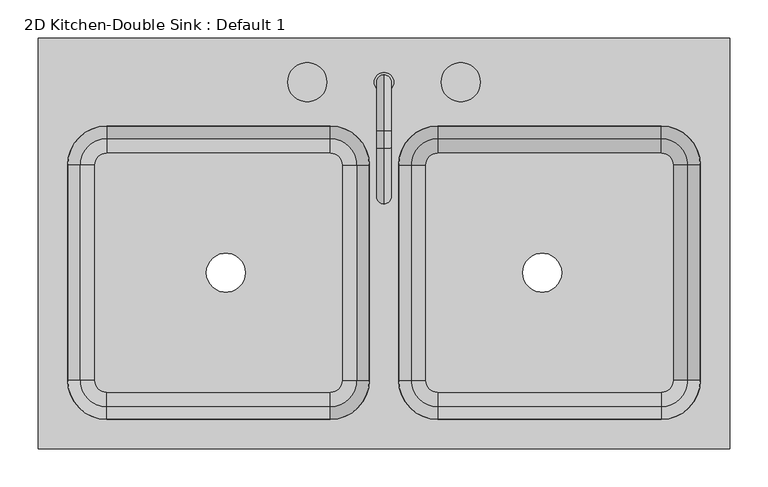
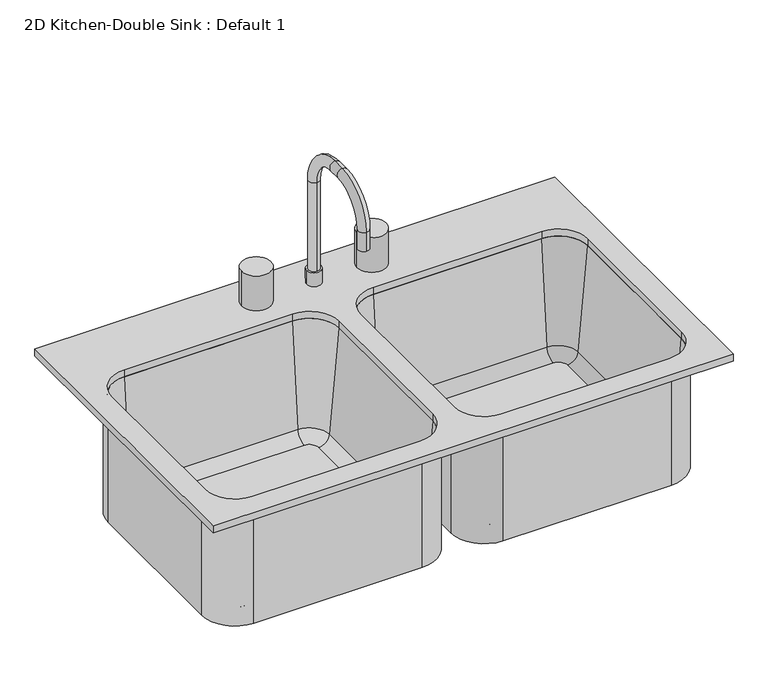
"""IFC4 building model written with IfcOpenShell, lengths in millimetres: flow terminal geometry, 2D Kitchen-Double Sink : Default 1."""

from ifc_helpers import new_model, si_unit, point, frame, frame_2d, origin, place, context, project, spatial, polyline, circle_curve, ellipse_curve, trimmed, segment, composite_curve, outline, extrude, source, transform, mapped, element, save
from ifc_brep_helpers import plane_surface, cylinder_surface, revolved_surface, advanced_brep


def flow_terminal_2d_kitchen_double_sink_default_1_847390bf(model_context):
    return source(origin(), model_context, "Body", "SolidModel", [
        advanced_brep(
        [(377.0892342, 120.0338193, 555.625), (85.5392406, 120.0338193, 555.625), (70.2508224, 104.7454011, 555.625), (70.2508224, -176.2545989, 555.625), (85.5392406, -191.5430171, 555.625), (377.0892406, -191.5430171, 555.625), (392.3776588, -176.2545989, 555.625), (392.3776588, 104.7454011, 555.625), (196.3892406, -35.7545989, 555.625), (247.1892406, -35.7545989, 555.625), (28.3892406, 104.7454011, 546.1), (85.5392406, 161.8954011, 546.1), (377.0892406, 161.8954011, 546.1), (434.2392406, 104.7454011, 546.1), (434.2392406, -176.2545989, 546.1), (377.0892406, -233.4045989, 546.1), (85.5392406, -233.4045989, 546.1), (28.3892406, -176.2545989, 546.1), (196.3892406, -35.7545989, 546.1), (247.1892406, -35.7545989, 546.1), (34.7392406, 104.7454011, 762.0), (85.5392406, 155.5454011, 762.0), (85.5392406, 161.8954011, 762.0), (28.3892406, 104.7454011, 762.0), (51.2733134, 104.7454011, 573.0146831), (85.5392406, 139.0113283, 573.0146831), (28.3892406, -176.2545989, 762.0), (34.7392406, -176.2545989, 762.0), (51.2733134, -176.2545989, 573.0146831), (85.5392406, -233.4045989, 762.0), (85.5392406, -227.0545989, 762.0), (85.5392406, -210.5205261, 573.0146831), (377.0892406, -233.4045989, 762.0), (377.0892406, -227.0545989, 762.0), (377.0892406, -210.5205261, 573.0146831), (434.2392406, -176.2545989, 762.0), (427.8892406, -176.2545989, 762.0), (411.3551678, -176.2545989, 573.0146831), (434.2392406, 104.7454011, 762.0), (427.8892406, 104.7454011, 762.0), (411.3551678, 104.7454011, 573.0146831), (377.0892406, 161.8954011, 762.0), (377.0892406, 155.5454011, 762.0), (377.0892406, 139.0113283, 573.0146831)],
        [
            (0, 1),
            (1, 2, circle_curve(frame((85.5392406, 104.7454011, 555.625), z_axis=(0.0, 0.0, 1.0), x_axis=(0.0, 1.0, 0.0)), 15.2884182)),
            (2, 3),
            (3, 4, circle_curve(frame((85.5392406, -176.2545989, 555.625), z_axis=(0.0, 0.0, 1.0), x_axis=(-1.0, 0.0, 0.0)), 15.2884182)),
            (4, 5),
            (5, 6, circle_curve(frame((377.0892406, -176.2545989, 555.625), z_axis=(0.0, 0.0, 1.0), x_axis=(0.0, -1.0, 0.0)), 15.2884182)),
            (6, 7),
            (7, 0, circle_curve(frame((377.0892406, 104.7454011, 555.625), z_axis=(0.0, 0.0, 1.0), x_axis=(1.0, 0.0, 0.0)), 15.2884182)),
            (8, 9, circle_curve(frame((221.7892406, -35.7545989, 555.625), z_axis=(0.0, 0.0, -1.0), x_axis=(1.0, 0.0, 0.0)), 25.4)),
            (9, 8, circle_curve(frame((221.7892406, -35.7545989, 555.625), z_axis=(0.0, 0.0, -1.0), x_axis=(1.0, 0.0, 0.0)), 25.4)),
            (10, 11, circle_curve(frame((85.5392406, 104.7454011, 546.1), z_axis=(0.0, 0.0, -1.0), x_axis=(0.0, 1.0, 0.0)), 57.15)),
            (11, 12),
            (12, 13, circle_curve(frame((377.0892406, 104.7454011, 546.1), z_axis=(0.0, 0.0, -1.0), x_axis=(1.0, 0.0, 0.0)), 57.15)),
            (13, 14),
            (14, 15, circle_curve(frame((377.0892406, -176.2545989, 546.1), z_axis=(0.0, 0.0, -1.0), x_axis=(0.0, -1.0, 0.0)), 57.15)),
            (15, 16),
            (16, 17, circle_curve(frame((85.5392406, -176.2545989, 546.1), z_axis=(0.0, 0.0, -1.0), x_axis=(-1.0, 0.0, 0.0)), 57.15)),
            (17, 10),
            (18, 19, circle_curve(frame((221.7892406, -35.7545989, 546.1), z_axis=(0.0, 0.0, 1.0), x_axis=(1.0, 0.0, 0.0)), 25.4)),
            (19, 18, circle_curve(frame((221.7892406, -35.7545989, 546.1), z_axis=(0.0, 0.0, 1.0), x_axis=(1.0, 0.0, 0.0)), 25.4)),
            (8, 18),
            (19, 9),
            (20, 21, circle_curve(frame((85.5392406, 104.7454011, 762.0), z_axis=(0.0, 0.0, -1.0), x_axis=(0.0, 1.0, 0.0)), 50.8)),
            (21, 22),
            (22, 23, circle_curve(frame((85.5392406, 104.7454011, 762.0), z_axis=(0.0, 0.0, 1.0), x_axis=(0.0, 1.0, 0.0)), 57.15)),
            (23, 20),
            (20, 24),
            (24, 25, circle_curve(frame((85.5392406, 104.7454011, 573.0146831), z_axis=(0.0, 0.0, -1.0), x_axis=(0.0, 1.0, 0.0)), 34.2659272)),
            (25, 21),
            (24, 2, circle_curve(frame((70.2508224, 104.7454011, 574.675), z_axis=(0.0, -1.0, 0.0), x_axis=(1.0, 0.0, 0.0)), 19.05)),
            (1, 25, circle_curve(frame((85.5392406, 120.0338193, 574.675), z_axis=(1.0, 0.0, 0.0), x_axis=(0.0, -1.0, 0.0)), 19.05)),
            (22, 11),
            (10, 23),
            (23, 26),
            (26, 27),
            (27, 20),
            (27, 28),
            (28, 24),
            (28, 3, circle_curve(frame((70.2508224, -176.2545989, 574.675), z_axis=(0.0, -1.0, 0.0), x_axis=(1.0, 0.0, 0.0)), 19.05)),
            (17, 26),
            (26, 29, circle_curve(frame((85.5392406, -176.2545989, 762.0), z_axis=(0.0, 0.0, 1.0), x_axis=(-1.0, 0.0, 0.0)), 57.15)),
            (29, 30),
            (30, 27, circle_curve(frame((85.5392406, -176.2545989, 762.0), z_axis=(0.0, 0.0, -1.0), x_axis=(-1.0, 0.0, 0.0)), 50.8)),
            (30, 31),
            (31, 28, circle_curve(frame((85.5392406, -176.2545989, 573.0146831), z_axis=(0.0, 0.0, -1.0), x_axis=(-1.0, 0.0, 0.0)), 34.2659272)),
            (31, 4, circle_curve(frame((85.5392406, -191.5430171, 574.675), z_axis=(1.0, 0.0, 0.0), x_axis=(0.0, 1.0, 0.0)), 19.05)),
            (16, 29),
            (29, 32),
            (32, 33),
            (33, 30),
            (33, 34),
            (34, 31),
            (34, 5, circle_curve(frame((377.0892406, -191.5430171, 574.675), z_axis=(1.0, 0.0, 0.0), x_axis=(0.0, 1.0, 0.0)), 19.05)),
            (15, 32),
            (32, 35, circle_curve(frame((377.0892406, -176.2545989, 762.0), z_axis=(0.0, 0.0, 1.0), x_axis=(0.0, -1.0, 0.0)), 57.15)),
            (35, 36),
            (36, 33, circle_curve(frame((377.0892406, -176.2545989, 762.0), z_axis=(0.0, 0.0, -1.0), x_axis=(0.0, -1.0, 0.0)), 50.8)),
            (36, 37),
            (37, 34, circle_curve(frame((377.0892406, -176.2545989, 573.0146831), z_axis=(0.0, 0.0, -1.0), x_axis=(0.0, -1.0, 0.0)), 34.2659272)),
            (37, 6, circle_curve(frame((392.3776588, -176.2545989, 574.675), z_axis=(0.0, 1.0, 0.0), x_axis=(-1.0, 0.0, 0.0)), 19.05)),
            (14, 35),
            (35, 38),
            (38, 39),
            (39, 36),
            (39, 40),
            (40, 37),
            (40, 7, circle_curve(frame((392.3776588, 104.7454011, 574.675), z_axis=(0.0, 1.0, 0.0), x_axis=(-1.0, 0.0, 0.0)), 19.05)),
            (13, 38),
            (38, 41, circle_curve(frame((377.0892406, 104.7454011, 762.0), z_axis=(0.0, 0.0, 1.0), x_axis=(1.0, 0.0, 0.0)), 57.15)),
            (41, 42),
            (42, 39, circle_curve(frame((377.0892406, 104.7454011, 762.0), z_axis=(0.0, 0.0, -1.0), x_axis=(1.0, 0.0, 0.0)), 50.8)),
            (42, 43),
            (43, 40, circle_curve(frame((377.0892406, 104.7454011, 573.0146831), z_axis=(0.0, 0.0, -1.0), x_axis=(1.0, 0.0, 0.0)), 34.2659272)),
            (43, 0, circle_curve(frame((377.0892406, 120.0338193, 574.675), z_axis=(-1.0, 0.0, 0.0), x_axis=(0.0, -1.0, 0.0)), 19.05)),
            (12, 41),
            (21, 42),
            (41, 22),
            (25, 43),
        ],
        [
            plane_surface(frame((85.5392406, 120.0338193, 555.625), z_axis=(0.0, 0.0, 1.0), x_axis=(-1.0, 0.0, 0.0))),
            plane_surface(frame((85.5392406, 120.0338193, 546.1), z_axis=(0.0, 0.0, -1.0), x_axis=(1.0, 0.0, 0.0))),
            revolved_surface(polyline([(247.1892406, -35.7545989, 546.1), (247.1892406, -35.7545989, 555.625)]), (221.7892406, -35.7545989, 0.0), (0.0, 0.0, -1.0)),
            plane_surface(frame((85.5392406, 104.7454011, 762.0), z_axis=(0.0, 0.0, 1.0), x_axis=(0.0, 1.0, 0.0))),
            revolved_surface(polyline([(85.5392406, 155.5454011, 762.0), (85.5392406, 139.0113283, 573.0146831)]), (85.5392406, 104.7454011, 0.0), (0.0, 0.0, 1.0)),
            revolved_surface(trimmed(ellipse_curve(frame((85.5392406, 120.0338193, 574.675), z_axis=(-1.0, 0.0, 0.0), x_axis=(0.0, -1.0, 0.0)), 19.05, 19.05), [point((85.5392406, 139.0113283, 573.0146831))], [point((85.5392406, 120.0338193, 555.625))], True, "CARTESIAN"), (85.5392406, 104.7454011, 0.0), (0.0, 0.0, 1.0)),
            cylinder_surface(frame((85.5392406, 104.7454011, 0.0), z_axis=(0.0, 0.0, 1.0), x_axis=(0.0, 1.0, 0.0)), 57.15),
            plane_surface(frame((28.3892406, 104.7454011, 762.0), z_axis=(0.0, 0.0, 1.0), x_axis=(0.0, -1.0, 0.0))),
            plane_surface(frame((34.7392406, 104.7454011, 762.0), z_axis=(0.996194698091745, 0.0, 0.08715574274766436), x_axis=(0.0, -1.0, 0.0))),
            revolved_surface(polyline([(89.3008224, -176.25459890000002, 574.675), (89.3008224, 104.7454011, 574.675)]), (70.2508224, 104.7454011, 574.675), (0.0, -1.0, 0.0)),
            plane_surface(frame((28.3892406, 104.7454011, 546.1), z_axis=(-1.0, 0.0, 0.0), x_axis=(0.0, -1.0, 0.0))),
            plane_surface(frame((85.5392406, -176.2545989, 762.0), z_axis=(0.0, 0.0, 1.0), x_axis=(-1.0, 0.0, 0.0))),
            revolved_surface(polyline([(34.7392406, -176.2545989, 762.0), (51.2733134, -176.2545989, 573.0146831)]), (85.5392406, -176.2545989, 0.0), (0.0, 0.0, 1.0)),
            revolved_surface(trimmed(ellipse_curve(frame((70.2508224, -176.2545989, 574.675), z_axis=(0.0, -1.0, 0.0), x_axis=(1.0, 0.0, 0.0)), 19.05, 19.05), [point((51.2733134, -176.2545989, 573.0146831))], [point((70.2508224, -176.2545989, 555.625))], True, "CARTESIAN"), (85.5392406, -176.2545989, 0.0), (0.0, 0.0, 1.0)),
            cylinder_surface(frame((85.5392406, -176.2545989, 0.0), z_axis=(0.0, 0.0, 1.0), x_axis=(-1.0, 0.0, 0.0)), 57.15),
            plane_surface(frame((85.5392406, -233.4045989, 762.0), z_axis=(0.0, 0.0, 1.0), x_axis=(1.0, 0.0, 0.0))),
            plane_surface(frame((85.5392406, -227.0545989, 762.0), z_axis=(0.0, 0.996194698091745, 0.08715574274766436), x_axis=(1.0, 0.0, 0.0))),
            revolved_surface(polyline([(377.0892405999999, -172.49301709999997, 574.675), (85.5392406, -172.49301709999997, 574.675)]), (85.5392406, -191.5430171, 574.675), (1.0, 0.0, 0.0)),
            plane_surface(frame((85.5392406, -233.4045989, 546.1), z_axis=(0.0, -1.0, 0.0), x_axis=(1.0, 0.0, 0.0))),
            plane_surface(frame((377.0892406, -176.2545989, 762.0), z_axis=(0.0, 0.0, 1.0), x_axis=(0.0, -1.0, 0.0))),
            revolved_surface(polyline([(377.0892406, -227.0545989, 762.0), (377.0892406, -210.5205261, 573.0146831)]), (377.0892406, -176.2545989, 0.0), (0.0, 0.0, 1.0)),
            revolved_surface(trimmed(ellipse_curve(frame((377.0892406, -191.5430171, 574.675), z_axis=(1.0, 0.0, 0.0), x_axis=(0.0, 1.0, 0.0)), 19.05, 19.05), [point((377.0892406, -210.5205261, 573.0146831))], [point((377.0892406, -191.5430171, 555.625))], True, "CARTESIAN"), (377.0892406, -176.2545989, 0.0), (0.0, 0.0, 1.0)),
            cylinder_surface(frame((377.0892406, -176.2545989, 0.0), z_axis=(0.0, 0.0, 1.0), x_axis=(0.0, -1.0, 0.0)), 57.15),
            plane_surface(frame((434.2392406, -176.2545989, 762.0), z_axis=(0.0, 0.0, 1.0), x_axis=(0.0, 1.0, 0.0))),
            plane_surface(frame((427.8892406, -176.2545989, 762.0), z_axis=(-0.996194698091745, 0.0, 0.08715574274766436), x_axis=(0.0, 1.0, 0.0))),
            revolved_surface(polyline([(373.3276588, 104.74540110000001, 574.675), (373.3276588, -176.2545989, 574.675)]), (392.3776588, -176.2545989, 574.675), (0.0, 1.0, 0.0)),
            plane_surface(frame((434.2392406, -176.2545989, 546.1), z_axis=(1.0, 0.0, 0.0), x_axis=(0.0, 1.0, 0.0))),
            plane_surface(frame((377.0892406, 104.7454011, 762.0), z_axis=(0.0, 0.0, 1.0), x_axis=(1.0, 0.0, 0.0))),
            revolved_surface(polyline([(427.8892406, 104.7454011, 762.0), (411.3551678, 104.7454011, 573.0146831)]), (377.0892406, 104.7454011, 0.0), (0.0, 0.0, 1.0)),
            revolved_surface(trimmed(ellipse_curve(frame((392.3776588, 104.7454011, 574.675), z_axis=(0.0, 1.0, 0.0), x_axis=(-1.0, 0.0, 0.0)), 19.05, 19.05), [point((411.3551678, 104.7454011, 573.0146831))], [point((392.3776588, 104.7454011, 555.625))], True, "CARTESIAN"), (377.0892406, 104.7454011, 0.0), (0.0, 0.0, 1.0)),
            cylinder_surface(frame((377.0892406, 104.7454011, 0.0), z_axis=(0.0, 0.0, 1.0), x_axis=(1.0, 0.0, 0.0)), 57.15),
            plane_surface(frame((377.0892406, 161.8954011, 762.0), z_axis=(0.0, 0.0, 1.0), x_axis=(-1.0, 0.0, 0.0))),
            plane_surface(frame((377.0892406, 155.5454011, 762.0), z_axis=(0.0, -0.996194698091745, 0.08715574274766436), x_axis=(-1.0, 0.0, 0.0))),
            revolved_surface(polyline([(85.53924060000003, 100.98381930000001, 574.675), (377.0892406, 100.98381930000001, 574.675)]), (377.0892406, 120.0338193, 574.675), (-1.0, 0.0, 0.0)),
            plane_surface(frame((377.0892406, 161.8954011, 546.1), z_axis=(0.0, 1.0, 0.0), x_axis=(-1.0, 0.0, 0.0))),
        ],
        [
            (0, [[1, 2, 3, 4, 5, 6, 7, 8], [9, 10]]),
            (1, [[11, 12, 13, 14, 15, 16, 17, 18], [19, 20]]),
            (2, [[-9, 21, -20, 22]]),
            (2, [[-10, -22, -19, -21]]),
            (3, [[23, 24, 25, 26]]),
            (4, [[-23, 27, 28, 29]]),
            (5, [[-28, 30, -2, 31]]),
            (6, [[-25, 32, -11, 33]]),
            (7, [[-26, 34, 35, 36]]),
            (8, [[-27, -36, 37, 38]]),
            (9, [[-30, -38, 39, -3]]),
            (10, [[-33, -18, 40, -34]]),
            (11, [[-35, 41, 42, 43]]),
            (12, [[-37, -43, 44, 45]]),
            (13, [[-39, -45, 46, -4]]),
            (14, [[-40, -17, 47, -41]]),
            (15, [[-42, 48, 49, 50]]),
            (16, [[-44, -50, 51, 52]]),
            (17, [[-46, -52, 53, -5]]),
            (18, [[-47, -16, 54, -48]]),
            (19, [[-49, 55, 56, 57]]),
            (20, [[-51, -57, 58, 59]]),
            (21, [[-53, -59, 60, -6]]),
            (22, [[-54, -15, 61, -55]]),
            (23, [[-56, 62, 63, 64]]),
            (24, [[-58, -64, 65, 66]]),
            (25, [[-60, -66, 67, -7]]),
            (26, [[-61, -14, 68, -62]]),
            (27, [[-63, 69, 70, 71]]),
            (28, [[-65, -71, 72, 73]]),
            (29, [[-67, -73, 74, -8]]),
            (30, [[-68, -13, 75, -69]]),
            (31, [[-24, 76, -70, 77]]),
            (32, [[-29, 78, -72, -76]]),
            (33, [[-31, -1, -74, -78]]),
            (34, [[-32, -77, -75, -12]]),
        ],
    ),
        advanced_brep(
        [(-38.8723412, 104.7454011, 555.625), (-54.1607594, 120.0338193, 555.625), (-345.7107594, 120.0338193, 555.625), (-360.9991776, 104.7454011, 555.625), (-360.9991776, -176.2545989, 555.625), (-345.7107594, -191.5430171, 555.625), (-54.1607594, -191.5430171, 555.625), (-38.8723412, -176.2545989, 555.625), (-215.8107594, -35.7545989, 555.625), (-165.0107594, -35.7545989, 555.625), (-402.8607594, 104.7454011, 546.1), (-345.7107594, 161.8954011, 546.1), (-54.1607594, 161.8954011, 546.1), (2.9892406, 104.7454011, 546.1), (2.9892406, -176.2545989, 546.1), (-54.1607594, -233.4045989, 546.1), (-345.7107594, -233.4045989, 546.1), (-402.8607594, -176.2545989, 546.1), (-215.8107594, -35.7545989, 546.1), (-165.0107594, -35.7545989, 546.1), (-54.1607594, 161.8954011, 762.0), (2.9892406, 104.7454011, 762.0), (-19.8948322, 104.7454011, 573.0146831), (-54.1607594, 139.0113283, 573.0146831), (-3.3607594, 104.7454011, 762.0), (-54.1607594, 155.5454011, 762.0), (2.9892406, -176.2545989, 762.0), (-19.8948322, -176.2545989, 573.0146831), (-3.3607594, -176.2545989, 762.0), (-54.1607594, -233.4045989, 762.0), (-54.1607594, -210.5205261, 573.0146831), (-54.1607594, -227.0545989, 762.0), (-345.7107594, -233.4045989, 762.0), (-345.7107594, -210.5205261, 573.0146831), (-345.7107594, -227.0545989, 762.0), (-402.8607594, -176.2545989, 762.0), (-379.9766866, -176.2545989, 573.0146831), (-396.5107594, -176.2545989, 762.0), (-402.8607594, 104.7454011, 762.0), (-379.9766866, 104.7454011, 573.0146831), (-396.5107594, 104.7454011, 762.0), (-345.7107594, 161.8954011, 762.0), (-345.7107594, 139.0113283, 573.0146831), (-345.7107594, 155.5454011, 762.0)],
        [
            (0, 1, circle_curve(frame((-54.1607594, 104.7454011, 555.625), z_axis=(0.0, 0.0, 1.0), x_axis=(0.0, 1.0, 0.0)), 15.2884182)),
            (1, 2),
            (2, 3, circle_curve(frame((-345.7107594, 104.7454011, 555.625), z_axis=(0.0, 0.0, 1.0), x_axis=(-1.0, 0.0, 0.0)), 15.2884182)),
            (3, 4),
            (4, 5, circle_curve(frame((-345.7107594, -176.2545989, 555.625), z_axis=(0.0, 0.0, 1.0), x_axis=(0.0, -1.0, 0.0)), 15.2884182)),
            (5, 6),
            (6, 7, circle_curve(frame((-54.1607594, -176.2545989, 555.625), z_axis=(0.0, 0.0, 1.0), x_axis=(1.0, 0.0, 0.0)), 15.2884182)),
            (7, 0),
            (8, 9, circle_curve(frame((-190.4107594, -35.7545989, 555.625), z_axis=(0.0, 0.0, -1.0), x_axis=(1.0, 0.0, 0.0)), 25.4)),
            (9, 8, circle_curve(frame((-190.4107594, -35.7545989, 555.625), z_axis=(0.0, 0.0, -1.0), x_axis=(1.0, 0.0, 0.0)), 25.4)),
            (10, 11, circle_curve(frame((-345.7107594, 104.7454011, 546.1), z_axis=(0.0, 0.0, -1.0), x_axis=(-1.0, 0.0, 0.0)), 57.15)),
            (11, 12),
            (12, 13, circle_curve(frame((-54.1607594, 104.7454011, 546.1), z_axis=(0.0, 0.0, -1.0), x_axis=(0.0, 1.0, 0.0)), 57.15)),
            (13, 14),
            (14, 15, circle_curve(frame((-54.1607594, -176.2545989, 546.1), z_axis=(0.0, 0.0, -1.0), x_axis=(1.0, 0.0, 0.0)), 57.15)),
            (15, 16),
            (16, 17, circle_curve(frame((-345.7107594, -176.2545989, 546.1), z_axis=(0.0, 0.0, -1.0), x_axis=(0.0, -1.0, 0.0)), 57.15)),
            (17, 10),
            (18, 19, circle_curve(frame((-190.4107594, -35.7545989, 546.1), z_axis=(0.0, 0.0, 1.0), x_axis=(1.0, 0.0, 0.0)), 25.4)),
            (19, 18, circle_curve(frame((-190.4107594, -35.7545989, 546.1), z_axis=(0.0, 0.0, 1.0), x_axis=(1.0, 0.0, 0.0)), 25.4)),
            (8, 18),
            (19, 9),
            (12, 20),
            (20, 21, circle_curve(frame((-54.1607594, 104.7454011, 762.0), z_axis=(0.0, 0.0, -1.0), x_axis=(0.0, 1.0, 0.0)), 57.15)),
            (21, 13),
            (0, 22, circle_curve(frame((-38.8723412, 104.7454011, 574.675), z_axis=(0.0, -1.0, 0.0), x_axis=(1.0, 0.0, 0.0)), 19.05)),
            (22, 23, circle_curve(frame((-54.1607594, 104.7454011, 573.0146831), z_axis=(0.0, 0.0, 1.0), x_axis=(0.0, 1.0, 0.0)), 34.2659272)),
            (23, 1, circle_curve(frame((-54.1607594, 120.0338193, 574.675), z_axis=(-1.0, 0.0, 0.0), x_axis=(0.0, 1.0, 0.0)), 19.05)),
            (22, 24),
            (24, 25, circle_curve(frame((-54.1607594, 104.7454011, 762.0), z_axis=(0.0, 0.0, 1.0), x_axis=(0.0, 1.0, 0.0)), 50.8)),
            (25, 23),
            (20, 25),
            (24, 21),
            (21, 26),
            (26, 14),
            (7, 27, circle_curve(frame((-38.8723412, -176.2545989, 574.675), z_axis=(0.0, -1.0, 0.0), x_axis=(1.0, 0.0, 0.0)), 19.05)),
            (27, 22),
            (27, 28),
            (28, 24),
            (28, 26),
            (26, 29, circle_curve(frame((-54.1607594, -176.2545989, 762.0), z_axis=(0.0, 0.0, -1.0), x_axis=(1.0, 0.0, 0.0)), 57.15)),
            (29, 15),
            (6, 30, circle_curve(frame((-54.1607594, -191.5430171, 574.675), z_axis=(-1.0, 0.0, 0.0), x_axis=(0.0, -1.0, 0.0)), 19.05)),
            (30, 27, circle_curve(frame((-54.1607594, -176.2545989, 573.0146831), z_axis=(0.0, 0.0, 1.0), x_axis=(1.0, 0.0, 0.0)), 34.2659272)),
            (30, 31),
            (31, 28, circle_curve(frame((-54.1607594, -176.2545989, 762.0), z_axis=(0.0, 0.0, 1.0), x_axis=(1.0, 0.0, 0.0)), 50.8)),
            (31, 29),
            (29, 32),
            (32, 16),
            (5, 33, circle_curve(frame((-345.7107594, -191.5430171, 574.675), z_axis=(-1.0, 0.0, 0.0), x_axis=(0.0, -1.0, 0.0)), 19.05)),
            (33, 30),
            (33, 34),
            (34, 31),
            (34, 32),
            (32, 35, circle_curve(frame((-345.7107594, -176.2545989, 762.0), z_axis=(0.0, 0.0, -1.0), x_axis=(0.0, -1.0, 0.0)), 57.15)),
            (35, 17),
            (4, 36, circle_curve(frame((-360.9991776, -176.2545989, 574.675), z_axis=(0.0, 1.0, 0.0), x_axis=(-1.0, 0.0, 0.0)), 19.05)),
            (36, 33, circle_curve(frame((-345.7107594, -176.2545989, 573.0146831), z_axis=(0.0, 0.0, 1.0), x_axis=(0.0, -1.0, 0.0)), 34.2659272)),
            (36, 37),
            (37, 34, circle_curve(frame((-345.7107594, -176.2545989, 762.0), z_axis=(0.0, 0.0, 1.0), x_axis=(0.0, -1.0, 0.0)), 50.8)),
            (37, 35),
            (35, 38),
            (38, 10),
            (3, 39, circle_curve(frame((-360.9991776, 104.7454011, 574.675), z_axis=(0.0, 1.0, 0.0), x_axis=(-1.0, 0.0, 0.0)), 19.05)),
            (39, 36),
            (39, 40),
            (40, 37),
            (40, 38),
            (38, 41, circle_curve(frame((-345.7107594, 104.7454011, 762.0), z_axis=(0.0, 0.0, -1.0), x_axis=(-1.0, 0.0, 0.0)), 57.15)),
            (41, 11),
            (2, 42, circle_curve(frame((-345.7107594, 120.0338193, 574.675), z_axis=(1.0, 0.0, 0.0), x_axis=(0.0, 1.0, 0.0)), 19.05)),
            (42, 39, circle_curve(frame((-345.7107594, 104.7454011, 573.0146831), z_axis=(0.0, 0.0, 1.0), x_axis=(-1.0, 0.0, 0.0)), 34.2659272)),
            (42, 43),
            (43, 40, circle_curve(frame((-345.7107594, 104.7454011, 762.0), z_axis=(0.0, 0.0, 1.0), x_axis=(-1.0, 0.0, 0.0)), 50.8)),
            (43, 41),
            (41, 20),
            (23, 42),
            (25, 43),
        ],
        [
            plane_surface(frame((-345.7107594, 117.4454011, 555.625), z_axis=(0.0, 0.0, 1.0), x_axis=(-1.0, 0.0, 0.0))),
            plane_surface(frame((-345.7107594, 117.4454011, 546.1), z_axis=(0.0, 0.0, -1.0), x_axis=(1.0, 0.0, 0.0))),
            revolved_surface(polyline([(-165.01075939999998, -35.7545989, 546.1), (-165.01075939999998, -35.7545989, 555.625)]), (-190.4107594, -35.7545989, 0.0), (0.0, 0.0, -1.0)),
            cylinder_surface(frame((-54.1607594, 104.7454011, 0.0), z_axis=(0.0, 0.0, -1.0), x_axis=(0.0, 1.0, 0.0)), 57.15),
            revolved_surface(trimmed(ellipse_curve(frame((-54.1607594, 120.0338193, 574.675), z_axis=(1.0, 0.0, 0.0), x_axis=(0.0, 1.0, 0.0)), 19.05, 19.05), [point((-54.1607594, 120.0338193, 555.625))], [point((-54.1607594, 139.0113283, 573.0146831))], True, "CARTESIAN"), (-54.1607594, 104.7454011, 0.0), (0.0, 0.0, -1.0)),
            revolved_surface(polyline([(-54.1607594, 139.0113283, 573.0146831), (-54.1607594, 155.5454011, 762.0)]), (-54.1607594, 104.7454011, 0.0), (0.0, 0.0, -1.0)),
            plane_surface(frame((-54.1607594, 104.7454011, 762.0), z_axis=(0.0, 0.0, 1.0), x_axis=(0.0, 1.0, 0.0))),
            plane_surface(frame((2.9892406, 104.7454011, 762.0), z_axis=(1.0, 0.0, 0.0), x_axis=(0.0, -1.0, 0.0))),
            revolved_surface(polyline([(-19.8223412, -176.25459890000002, 574.675), (-19.8223412, 104.7454011, 574.675)]), (-38.8723412, 104.7454011, 574.675), (0.0, -1.0, 0.0)),
            plane_surface(frame((-19.8948322, 104.7454011, 573.0146831), z_axis=(-0.996194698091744, 0.0, 0.08715574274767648), x_axis=(0.0, -1.0, 0.0))),
            plane_surface(frame((-3.3607594, 104.7454011, 762.0), z_axis=(0.0, 0.0, 1.0), x_axis=(0.0, -1.0, 0.0))),
            cylinder_surface(frame((-54.1607594, -176.2545989, 0.0), z_axis=(0.0, 0.0, -1.0), x_axis=(1.0, 0.0, 0.0)), 57.15),
            revolved_surface(trimmed(ellipse_curve(frame((-38.8723412, -176.2545989, 574.675), z_axis=(0.0, -1.0, 0.0), x_axis=(1.0, 0.0, 0.0)), 19.05, 19.05), [point((-38.8723412, -176.2545989, 555.625))], [point((-19.8948322, -176.2545989, 573.0146831))], True, "CARTESIAN"), (-54.1607594, -176.2545989, 0.0), (0.0, 0.0, -1.0)),
            revolved_surface(polyline([(-19.8948322, -176.2545989, 573.0146831), (-3.3607594, -176.2545989, 762.0)]), (-54.1607594, -176.2545989, 0.0), (0.0, 0.0, -1.0)),
            plane_surface(frame((-54.1607594, -176.2545989, 762.0), z_axis=(0.0, 0.0, 1.0), x_axis=(1.0, 0.0, 0.0))),
            plane_surface(frame((-54.1607594, -233.4045989, 762.0), z_axis=(0.0, -1.0, 0.0), x_axis=(-1.0, 0.0, 0.0))),
            revolved_surface(polyline([(-345.7107594, -210.5930171, 574.675), (-54.1607594, -210.5930171, 574.675)]), (-54.1607594, -191.5430171, 574.675), (-1.0, 0.0, 0.0)),
            plane_surface(frame((-54.1607594, -210.5205261, 573.0146831), z_axis=(0.0, 0.996194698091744, 0.08715574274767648), x_axis=(-1.0, 0.0, 0.0))),
            plane_surface(frame((-54.1607594, -227.0545989, 762.0), z_axis=(0.0, 0.0, 1.0), x_axis=(-1.0, 0.0, 0.0))),
            cylinder_surface(frame((-345.7107594, -176.2545989, 0.0), z_axis=(0.0, 0.0, -1.0), x_axis=(0.0, -1.0, 0.0)), 57.15),
            revolved_surface(trimmed(ellipse_curve(frame((-345.7107594, -191.5430171, 574.675), z_axis=(-1.0, 0.0, 0.0), x_axis=(0.0, -1.0, 0.0)), 19.05, 19.05), [point((-345.7107594, -191.5430171, 555.625))], [point((-345.7107594, -210.5205261, 573.0146831))], True, "CARTESIAN"), (-345.7107594, -176.2545989, 0.0), (0.0, 0.0, -1.0)),
            revolved_surface(polyline([(-345.7107594, -210.5205261, 573.0146831), (-345.7107594, -227.0545989, 762.0)]), (-345.7107594, -176.2545989, 0.0), (0.0, 0.0, -1.0)),
            plane_surface(frame((-345.7107594, -176.2545989, 762.0), z_axis=(0.0, 0.0, 1.0), x_axis=(0.0, -1.0, 0.0))),
            plane_surface(frame((-402.8607594, -176.2545989, 762.0), z_axis=(-1.0, 0.0, 0.0), x_axis=(0.0, 1.0, 0.0))),
            revolved_surface(polyline([(-380.0491776, 104.74540110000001, 574.675), (-380.0491776, -176.2545989, 574.675)]), (-360.9991776, -176.2545989, 574.675), (0.0, 1.0, 0.0)),
            plane_surface(frame((-379.9766866, -176.2545989, 573.0146831), z_axis=(0.996194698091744, 0.0, 0.08715574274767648), x_axis=(0.0, 1.0, 0.0))),
            plane_surface(frame((-396.5107594, -176.2545989, 762.0), z_axis=(0.0, 0.0, 1.0), x_axis=(0.0, 1.0, 0.0))),
            cylinder_surface(frame((-345.7107594, 104.7454011, 0.0), z_axis=(0.0, 0.0, -1.0), x_axis=(-1.0, 0.0, 0.0)), 57.15),
            revolved_surface(trimmed(ellipse_curve(frame((-360.9991776, 104.7454011, 574.675), z_axis=(0.0, 1.0, 0.0), x_axis=(-1.0, 0.0, 0.0)), 19.05, 19.05), [point((-360.9991776, 104.7454011, 555.625))], [point((-379.9766866, 104.7454011, 573.0146831))], True, "CARTESIAN"), (-345.7107594, 104.7454011, 0.0), (0.0, 0.0, -1.0)),
            revolved_surface(polyline([(-379.9766866, 104.7454011, 573.0146831), (-396.5107594, 104.7454011, 762.0)]), (-345.7107594, 104.7454011, 0.0), (0.0, 0.0, -1.0)),
            plane_surface(frame((-345.7107594, 104.7454011, 762.0), z_axis=(0.0, 0.0, 1.0), x_axis=(-1.0, 0.0, 0.0))),
            plane_surface(frame((-345.7107594, 161.8954011, 762.0), z_axis=(0.0, 1.0, 0.0), x_axis=(1.0, 0.0, 0.0))),
            revolved_surface(polyline([(-54.16075940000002, 139.08381930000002, 574.675), (-345.7107594, 139.08381930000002, 574.675)]), (-345.7107594, 120.0338193, 574.675), (1.0, 0.0, 0.0)),
            plane_surface(frame((-345.7107594, 139.0113283, 573.0146831), z_axis=(0.0, -0.996194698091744, 0.08715574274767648), x_axis=(1.0, 0.0, 0.0))),
            plane_surface(frame((-345.7107594, 155.5454011, 762.0), z_axis=(0.0, 0.0, 1.0), x_axis=(1.0, 0.0, 0.0))),
        ],
        [
            (0, [[1, 2, 3, 4, 5, 6, 7, 8], [9, 10]]),
            (1, [[11, 12, 13, 14, 15, 16, 17, 18], [19, 20]]),
            (2, [[-9, 21, -20, 22]]),
            (2, [[-10, -22, -19, -21]]),
            (3, [[-13, 23, 24, 25]]),
            (4, [[-1, 26, 27, 28]]),
            (5, [[-27, 29, 30, 31]]),
            (6, [[-24, 32, -30, 33]]),
            (7, [[-25, 34, 35, -14]]),
            (8, [[-26, -8, 36, 37]]),
            (9, [[-29, -37, 38, 39]]),
            (10, [[-33, -39, 40, -34]]),
            (11, [[-35, 41, 42, -15]]),
            (12, [[-36, -7, 43, 44]]),
            (13, [[-38, -44, 45, 46]]),
            (14, [[-40, -46, 47, -41]]),
            (15, [[-42, 48, 49, -16]]),
            (16, [[-43, -6, 50, 51]]),
            (17, [[-45, -51, 52, 53]]),
            (18, [[-47, -53, 54, -48]]),
            (19, [[-49, 55, 56, -17]]),
            (20, [[-50, -5, 57, 58]]),
            (21, [[-52, -58, 59, 60]]),
            (22, [[-54, -60, 61, -55]]),
            (23, [[-56, 62, 63, -18]]),
            (24, [[-57, -4, 64, 65]]),
            (25, [[-59, -65, 66, 67]]),
            (26, [[-61, -67, 68, -62]]),
            (27, [[-63, 69, 70, -11]]),
            (28, [[-64, -3, 71, 72]]),
            (29, [[-66, -72, 73, 74]]),
            (30, [[-68, -74, 75, -69]]),
            (31, [[-23, -12, -70, 76]]),
            (32, [[-28, 77, -71, -2]]),
            (33, [[-31, 78, -73, -77]]),
            (34, [[-32, -76, -75, -78]]),
        ],
    ),
        advanced_brep(
        [(2.9892406, 212.6954011, 774.7), (28.3892406, 212.6954011, 774.7), (15.6892406, 222.2204011, 962.025), (15.6892406, 203.1704011, 962.025), (15.6892406, 203.1704011, 800.1), (15.6892406, 222.2204011, 800.1), (15.6892406, 149.1954011, 1035.05), (15.6892406, 149.1954011, 1016.0), (15.6892406, 126.9704011, 1035.05), (15.6892406, 126.9704011, 1016.0), (15.6892406, 53.9454011, 962.025), (15.6892406, 72.9954011, 962.025), (15.6892406, 53.9454011, 927.1), (15.6892406, 72.9954011, 927.1), (2.9892406, 212.6954011, 800.1), (28.3892406, 212.6954011, 800.1)],
        [
            (0, 1, circle_curve(frame((15.6892406, 212.6954011, 774.7), z_axis=(0.0, 0.0, -1.0), x_axis=(1.0, 0.0, 0.0)), 12.7)),
            (1, 0, circle_curve(frame((15.6892406, 212.6954011, 774.7), z_axis=(0.0, 0.0, -1.0), x_axis=(1.0, 0.0, 0.0)), 12.7)),
            (2, 3, circle_curve(frame((15.6892406, 212.6954011, 962.025), z_axis=(0.0, 0.0, -1.0), x_axis=(0.0, -1.0, 0.0)), 9.525)),
            (3, 4),
            (4, 5, circle_curve(frame((15.6892406, 212.6954011, 800.1), z_axis=(0.0, 0.0, 1.0), x_axis=(0.0, -1.0, 0.0)), 9.525)),
            (5, 2),
            (3, 2, circle_curve(frame((15.6892406, 212.6954011, 962.025), z_axis=(0.0, 0.0, -1.0), x_axis=(0.0, -1.0, 0.0)), 9.525)),
            (5, 4, circle_curve(frame((15.6892406, 212.6954011, 800.1), z_axis=(0.0, 0.0, 1.0), x_axis=(0.0, -1.0, 0.0)), 9.525)),
            (2, 6, circle_curve(frame((15.6892406, 149.1954011, 962.025), z_axis=(1.0, 0.0, 0.0), x_axis=(0.0, 1.0, 0.0)), 73.025)),
            (6, 7, circle_curve(frame((15.6892406, 149.1954011, 1025.525), z_axis=(0.0, 1.0, 0.0), x_axis=(0.0, 0.0, -1.0)), 9.525)),
            (7, 3, circle_curve(frame((15.6892406, 149.1954011, 962.025), z_axis=(-1.0, 0.0, 0.0), x_axis=(0.0, 1.0, 0.0)), 53.975)),
            (7, 6, circle_curve(frame((15.6892406, 149.1954011, 1025.525), z_axis=(0.0, 1.0, 0.0), x_axis=(0.0, 0.0, -1.0)), 9.525)),
            (6, 8),
            (8, 9, circle_curve(frame((15.6892406, 126.9704011, 1025.525), z_axis=(0.0, 1.0, 0.0), x_axis=(0.0, 0.0, -1.0)), 9.525)),
            (9, 7),
            (9, 8, circle_curve(frame((15.6892406, 126.9704011, 1025.525), z_axis=(0.0, 1.0, 0.0), x_axis=(0.0, 0.0, -1.0)), 9.525)),
            (8, 10, circle_curve(frame((15.6892406, 126.9704011, 962.025), z_axis=(1.0, 0.0, 0.0), x_axis=(0.0, 0.0, 1.0)), 73.025)),
            (10, 11, circle_curve(frame((15.6892406, 63.4704011, 962.025), z_axis=(0.0, 0.0, 1.0), x_axis=(0.0, 1.0, 0.0)), 9.525)),
            (11, 9, circle_curve(frame((15.6892406, 126.9704011, 962.025), z_axis=(-1.0, 0.0, 0.0), x_axis=(0.0, 0.0, 1.0)), 53.975)),
            (11, 10, circle_curve(frame((15.6892406, 63.4704011, 962.025), z_axis=(0.0, 0.0, 1.0), x_axis=(0.0, 1.0, 0.0)), 9.525)),
            (12, 13, circle_curve(frame((15.6892406, 63.4704011, 927.1), z_axis=(0.0, 0.0, -1.0), x_axis=(0.0, 1.0, 0.0)), 9.525)),
            (13, 12, circle_curve(frame((15.6892406, 63.4704011, 927.1), z_axis=(0.0, 0.0, -1.0), x_axis=(0.0, 1.0, 0.0)), 9.525)),
            (10, 12),
            (13, 11),
            (14, 15, circle_curve(frame((15.6892406, 212.6954011, 800.1), z_axis=(0.0, 0.0, 1.0), x_axis=(1.0, 0.0, 0.0)), 12.7)),
            (15, 14, circle_curve(frame((15.6892406, 212.6954011, 800.1), z_axis=(0.0, 0.0, 1.0), x_axis=(1.0, 0.0, 0.0)), 12.7)),
            (14, 0),
            (1, 15),
        ],
        [
            plane_surface(frame((15.6892406, 203.1704011, 774.7), z_axis=(0.0, 0.0, -1.0), x_axis=(1.0, 0.0, 0.0))),
            cylinder_surface(frame((15.6892406, 212.6954011, 774.7), z_axis=(0.0, 0.0, -1.0), x_axis=(0.0, -1.0, 0.0)), 9.525),
            revolved_surface(trimmed(ellipse_curve(frame((15.6892406, 212.6954011, 962.025), z_axis=(0.0, 0.0, -1.0), x_axis=(0.0, -1.0, 0.0)), 9.525, 9.525), [point((15.6892406, 222.2204011, 962.025))], [point((15.6892406, 203.1704011, 962.025))], True, "CARTESIAN"), (15.6892406, 149.1954011, 962.025), (1.0, 0.0, 0.0)),
            revolved_surface(trimmed(ellipse_curve(frame((15.6892406, 212.6954011, 962.025), z_axis=(0.0, 0.0, -1.0), x_axis=(0.0, -1.0, 0.0)), 9.525, 9.525), [point((15.6892406, 203.1704011, 962.025))], [point((15.6892406, 222.2204011, 962.025))], True, "CARTESIAN"), (15.6892406, 149.1954011, 962.025), (1.0, 0.0, 0.0)),
            cylinder_surface(frame((15.6892406, 149.1954011, 1025.525), z_axis=(0.0, 1.0, 0.0), x_axis=(0.0, 0.0, -1.0)), 9.525),
            revolved_surface(trimmed(ellipse_curve(frame((15.6892406, 126.9704011, 1025.525), z_axis=(0.0, 1.0, 0.0), x_axis=(0.0, 0.0, -1.0)), 9.525, 9.525), [point((15.6892406, 126.9704011, 1035.05))], [point((15.6892406, 126.9704011, 1016.0))], True, "CARTESIAN"), (15.6892406, 126.9704011, 962.025), (1.0, 0.0, 0.0)),
            revolved_surface(trimmed(ellipse_curve(frame((15.6892406, 126.9704011, 1025.525), z_axis=(0.0, 1.0, 0.0), x_axis=(0.0, 0.0, -1.0)), 9.525, 9.525), [point((15.6892406, 126.9704011, 1016.0))], [point((15.6892406, 126.9704011, 1035.05))], True, "CARTESIAN"), (15.6892406, 126.9704011, 962.025), (1.0, 0.0, 0.0)),
            plane_surface(frame((15.6892406, 53.9454011, 927.1), z_axis=(0.0, 0.0, -1.0), x_axis=(-1.0, 0.0, 0.0))),
            cylinder_surface(frame((15.6892406, 63.4704011, 962.025), z_axis=(0.0, 0.0, 1.0), x_axis=(0.0, 1.0, 0.0)), 9.525),
            plane_surface(frame((28.3892406, 212.6954011, 800.1), z_axis=(0.0, 0.0, 1.0), x_axis=(0.0, 1.0, 0.0))),
            cylinder_surface(frame((15.6892406, 212.6954011, 774.7), z_axis=(0.0, 0.0, 1.0), x_axis=(1.0, 0.0, 0.0)), 12.7),
        ],
        [
            (0, [[1, 2]]),
            (1, [[3, 4, 5, 6]]),
            (1, [[7, -6, 8, -4]]),
            (2, [[-3, 9, 10, 11]]),
            (3, [[-7, -11, 12, -9]]),
            (4, [[-10, 13, 14, 15]]),
            (4, [[-12, -15, 16, -13]]),
            (5, [[-14, 17, 18, 19]]),
            (6, [[-16, -19, 20, -17]]),
            (7, [[21, 22]]),
            (8, [[-18, 23, -22, 24]]),
            (8, [[-20, -24, -21, -23]]),
            (9, [[25, 26], [-5, -8]]),
            (10, [[-25, 27, -2, 28]]),
            (10, [[-26, -28, -1, -27]]),
        ],
    ),
        extrude(outline(composite_curve([segment(trimmed(circle_curve(frame_2d((-84.3107594, 212.6954011)), 25.4), [point((-109.7107594, 212.6954011))], [point((-58.9107594, 212.6954011))], False, "CARTESIAN"), True, "CONTINUOUS"), segment(trimmed(circle_curve(frame_2d((-84.3107594, 212.6954011)), 25.4), [point((-58.9107594, 212.6954011))], [point((-109.7107594, 212.6954011))], False, "CARTESIAN"), True, "CONTINUOUS")], self_intersect=False)), frame((0.0, 0.0, 774.7), z_axis=(0.0, 0.0, 1.0), x_axis=(1.0, 0.0, 0.0)), (0.0, 0.0, 1.0), 63.5),
        extrude(outline(composite_curve([segment(trimmed(circle_curve(frame_2d((115.6892406, 212.6954011)), 25.4), [point((90.2892406, 212.6954011))], [point((141.0892406, 212.6954011))], False, "CARTESIAN"), True, "CONTINUOUS"), segment(trimmed(circle_curve(frame_2d((115.6892406, 212.6954011)), 25.4), [point((141.0892406, 212.6954011))], [point((90.2892406, 212.6954011))], False, "CARTESIAN"), True, "CONTINUOUS")], self_intersect=False)), frame((0.0, 0.0, 774.7), z_axis=(0.0, 0.0, 1.0), x_axis=(1.0, 0.0, 0.0)), (0.0, 0.0, 1.0), 63.5),
        extrude(outline(polyline([(465.9892406, 269.8454011), (465.9892406, -265.1545989), (-434.6107594, -265.1545989), (-434.6107594, 269.8454011), (465.9892406, 269.8454011)]), holes=[composite_curve([segment(polyline([(-54.1607594, 155.5454011), (-345.7107594, 155.5454011)]), True, "CONTINUOUS"), segment(trimmed(circle_curve(frame_2d((-345.7107594, 104.7454011)), 50.8), [point((-345.7107594, 155.5454011))], [point((-396.5107594, 104.7454011))], True, "CARTESIAN"), True, "CONTINUOUS"), segment(polyline([(-396.5107594, 104.7454011), (-396.5107594, -176.2545989)]), True, "CONTINUOUS"), segment(trimmed(circle_curve(frame_2d((-345.7107594, -176.2545989)), 50.8), [point((-396.5107594, -176.2545989))], [point((-345.7107594, -227.0545989))], True, "CARTESIAN"), True, "CONTINUOUS"), segment(polyline([(-345.7107594, -227.0545989), (-54.1607594, -227.0545989)]), True, "CONTINUOUS"), segment(trimmed(circle_curve(frame_2d((-54.1607594, -176.2545989)), 50.8), [point((-54.1607594, -227.0545989))], [point((-3.3607594, -176.2545989))], True, "CARTESIAN"), True, "CONTINUOUS"), segment(polyline([(-3.3607594, -176.2545989), (-3.3607594, 104.7454011)]), True, "CONTINUOUS"), segment(trimmed(circle_curve(frame_2d((-54.1607594, 104.7454011)), 50.8), [point((-3.3607594, 104.7454011))], [point((-54.1607594, 155.5454011))], True, "CARTESIAN"), True, "CONTINUOUS")], self_intersect=False), composite_curve([segment(polyline([(85.5392406, -227.0545989), (377.0892406, -227.0545989)]), True, "CONTINUOUS"), segment(trimmed(circle_curve(frame_2d((377.0892406, -176.2545989)), 50.8), [point((377.0892406, -227.0545989))], [point((427.8892406, -176.2545989))], True, "CARTESIAN"), True, "CONTINUOUS"), segment(polyline([(427.8892406, -176.2545989), (427.8892406, 104.7454011)]), True, "CONTINUOUS"), segment(trimmed(circle_curve(frame_2d((377.0892406, 104.7454011)), 50.8), [point((427.8892406, 104.7454011))], [point((377.0892406, 155.5454011))], True, "CARTESIAN"), True, "CONTINUOUS"), segment(polyline([(377.0892406, 155.5454011), (85.5392406, 155.5454011)]), True, "CONTINUOUS"), segment(trimmed(circle_curve(frame_2d((85.5392406, 104.7454011)), 50.8), [point((85.5392406, 155.5454011))], [point((34.7392406, 104.7454011))], True, "CARTESIAN"), True, "CONTINUOUS"), segment(polyline([(34.7392406, 104.7454011), (34.7392406, -176.2545989)]), True, "CONTINUOUS"), segment(trimmed(circle_curve(frame_2d((85.5392406, -176.2545989)), 50.8), [point((34.7392406, -176.2545989))], [point((85.5392406, -227.0545989))], True, "CARTESIAN"), True, "CONTINUOUS")], self_intersect=False)]), frame((0.0, 0.0, 762.0), z_axis=(0.0, 0.0, 1.0), x_axis=(1.0, 0.0, 0.0)), (0.0, 0.0, 1.0), 12.7),
    ])


if __name__ == "__main__":
    model = new_model("IFC4")
    model_context = context("Model", 3, world=origin())
    ifc_project = project(units=[si_unit("LENGTHUNIT", "METRE", prefix="MILLI")], contexts=[model_context])
    site = spatial("IfcSite", under=ifc_project)
    building = spatial("IfcBuilding", under=site)
    placement = place(None, origin())
    flow_terminal_2d_kitchen_double_sink_default_1_shape = flow_terminal_2d_kitchen_double_sink_default_1_847390bf(model_context)
    element("IfcFlowTerminal", 1, ObjectType="2D Kitchen-Double Sink : Default 1", at=placement, inside=building, context=model_context, shape_type="MappedRepresentation", body=[
        mapped(flow_terminal_2d_kitchen_double_sink_default_1_shape, transform((0.0, 0.0, 0.0), x_axis=(1.0, 0.0, 0.0), y_axis=(0.0, 1.0, 0.0), z_axis=(0.0, 0.0, 1.0))),
    ])
    save(model, "model.ifc")
